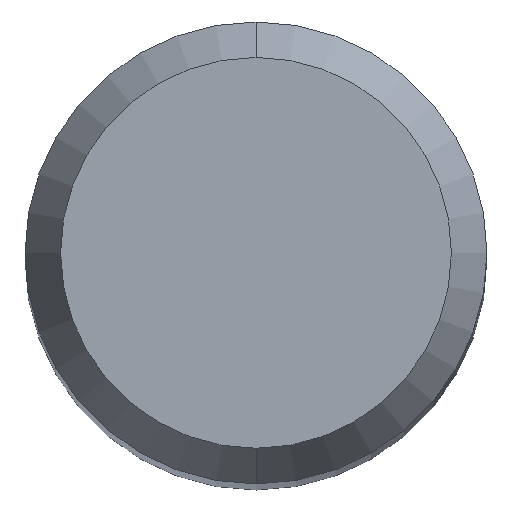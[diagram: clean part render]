
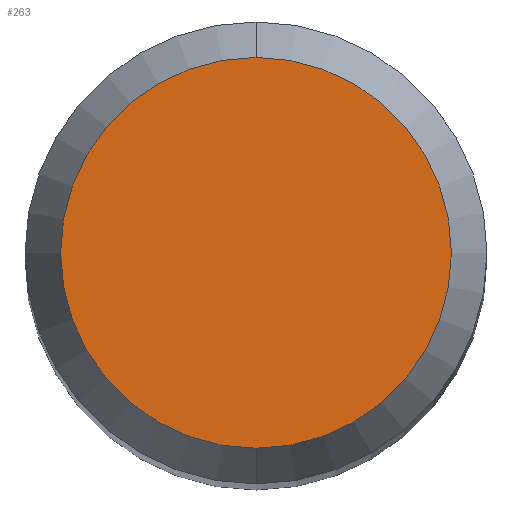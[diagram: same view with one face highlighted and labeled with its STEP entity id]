
A CAD part, top view. The second image highlights one B-rep face of the part: STEP entity #263.
In plain terms, the highlighted planar face has unit normal (0, 0, 1).
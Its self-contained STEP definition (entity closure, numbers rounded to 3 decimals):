
#229=VERTEX_POINT('',#551);
#263=ADVANCED_FACE('',(#590),#591,.T.);
#271=VERTEX_POINT('',#599);
#343=EDGE_CURVE('',#271,#229,#673,.T.);
#403=EDGE_CURVE('',#229,#271,#740,.T.);
#551=CARTESIAN_POINT('',(0.0,2.538,0.0));
#590=FACE_OUTER_BOUND('',#966,.T.);
#591=PLANE('',#967);
#599=CARTESIAN_POINT('',(0.,-2.538,0.0));
#673=CIRCLE('',#1162,2.538);
#740=CIRCLE('',#1269,2.538);
#966=EDGE_LOOP('',(#1597,#1598));
#967=AXIS2_PLACEMENT_3D('',#1599,#1600,#1601);
#1162=AXIS2_PLACEMENT_3D('',#1643,#1644,#1645);
#1269=AXIS2_PLACEMENT_3D('',#1732,#1733,#1734);
#1597=ORIENTED_EDGE('',*,*,#403,.F.);
#1598=ORIENTED_EDGE('',*,*,#343,.F.);
#1599=CARTESIAN_POINT('',(0.0,1.269,0.0));
#1600=DIRECTION('',(-0.0,0.0,1.0));
#1601=DIRECTION('',(0.0,-1.0,0.0));
#1643=CARTESIAN_POINT('',(0.0,0.0,0.0));
#1644=DIRECTION('',(0.0,0.0,-1.0));
#1645=DIRECTION('',(0.0,1.0,0.0));
#1732=CARTESIAN_POINT('',(0.0,0.0,0.0));
#1733=DIRECTION('',(0.0,0.0,-1.0));
#1734=DIRECTION('',(0.0,1.0,0.0));
